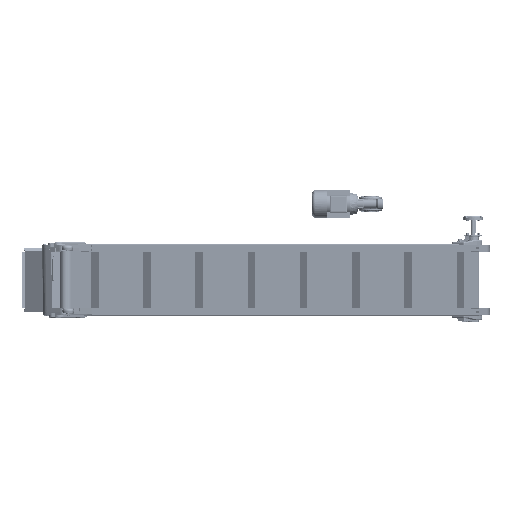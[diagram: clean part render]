
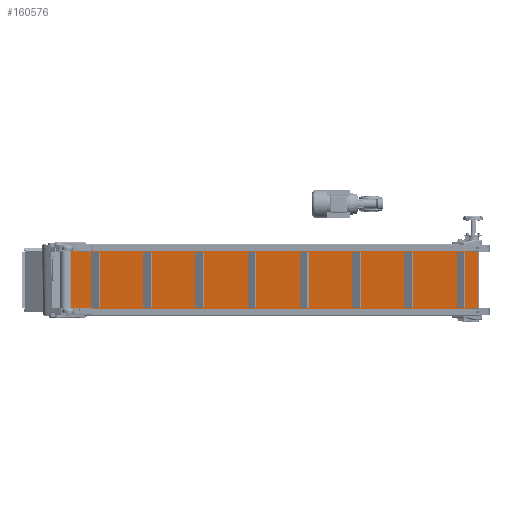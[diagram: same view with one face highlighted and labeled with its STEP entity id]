
A CAD part, front view. The second image highlights one B-rep face of the part: STEP entity #160576.
In plain terms, the highlighted planar face has unit normal (0.819, -0.574, 0).
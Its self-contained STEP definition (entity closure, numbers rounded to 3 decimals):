
#1155 = DIRECTION ( 'NONE',  ( 0.574, 0.819, 0. ) ) ;
#6598 = CARTESIAN_POINT ( 'NONE',  ( 2337.411, 2548.459, -146.5 ) ) ;
#9492 = LINE ( 'NONE', #205364, #10324 ) ;
#9695 = VERTEX_POINT ( 'NONE', #208148 ) ;
#10324 = VECTOR ( 'NONE', #186589, 1000. ) ;
#14337 = EDGE_CURVE ( 'NONE', #228686, #93707, #164115, .T. ) ;
#20884 = CARTESIAN_POINT ( 'NONE',  ( 547.853, -7.295, -146.5 ) ) ;
#21331 = EDGE_CURVE ( 'NONE', #9695, #228686, #23655, .T. ) ;
#23655 = LINE ( 'NONE', #109305, #39134 ) ;
#28608 = EDGE_CURVE ( 'NONE', #198169, #93707, #161813, .T. ) ;
#37386 = AXIS2_PLACEMENT_3D ( 'NONE', #45109, #188269, #227006 ) ;
#39134 = VECTOR ( 'NONE', #92862, 1000. ) ;
#45109 = CARTESIAN_POINT ( 'NONE',  ( 2337.411, 2548.459, 146.5 ) ) ;
#59654 = CARTESIAN_POINT ( 'NONE',  ( 2337.411, 2548.459, 146.5 ) ) ;
#92862 = DIRECTION ( 'NONE',  ( 0.574, 0.819, 0. ) ) ;
#93707 = VERTEX_POINT ( 'NONE', #6598 ) ;
#109305 = CARTESIAN_POINT ( 'NONE',  ( 2337.411, 2548.459, 146.5 ) ) ;
#117834 = PLANE ( 'NONE',  #37386 ) ;
#127993 = ORIENTED_EDGE ( 'NONE', *, *, #21331, .F. ) ;
#128527 = CARTESIAN_POINT ( 'NONE',  ( 2337.411, 2548.459, 146.5 ) ) ;
#128909 = CARTESIAN_POINT ( 'NONE',  ( 2337.411, 2548.459, -146.5 ) ) ;
#144467 = EDGE_CURVE ( 'NONE', #9695, #198169, #9492, .T. ) ;
#148773 = DIRECTION ( 'NONE',  ( 0., 0., -1. ) ) ;
#153626 = ORIENTED_EDGE ( 'NONE', *, *, #144467, .T. ) ;
#157256 = VECTOR ( 'NONE', #148773, 1000. ) ;
#160166 = VECTOR ( 'NONE', #1155, 1000. ) ;
#160576 = ADVANCED_FACE ( 'NONE', ( #205876 ), #117834, .F. ) ;
#161813 = LINE ( 'NONE', #128909, #160166 ) ;
#164115 = LINE ( 'NONE', #59654, #157256 ) ;
#169766 = ORIENTED_EDGE ( 'NONE', *, *, #14337, .F. ) ;
#186589 = DIRECTION ( 'NONE',  ( 0., 0., -1. ) ) ;
#188269 = DIRECTION ( 'NONE',  ( -0.819, 0.574, 0. ) ) ;
#198169 = VERTEX_POINT ( 'NONE', #20884 ) ;
#200879 = ORIENTED_EDGE ( 'NONE', *, *, #28608, .T. ) ;
#202483 = EDGE_LOOP ( 'NONE', ( #200879, #169766, #127993, #153626 ) ) ;
#205364 = CARTESIAN_POINT ( 'NONE',  ( 547.853, -7.295, 146.5 ) ) ;
#205876 = FACE_OUTER_BOUND ( 'NONE', #202483, .T. ) ;
#208148 = CARTESIAN_POINT ( 'NONE',  ( 547.853, -7.295, 146.5 ) ) ;
#227006 = DIRECTION ( 'NONE',  ( -0.574, -0.819, 0. ) ) ;
#228686 = VERTEX_POINT ( 'NONE', #128527 ) ;
